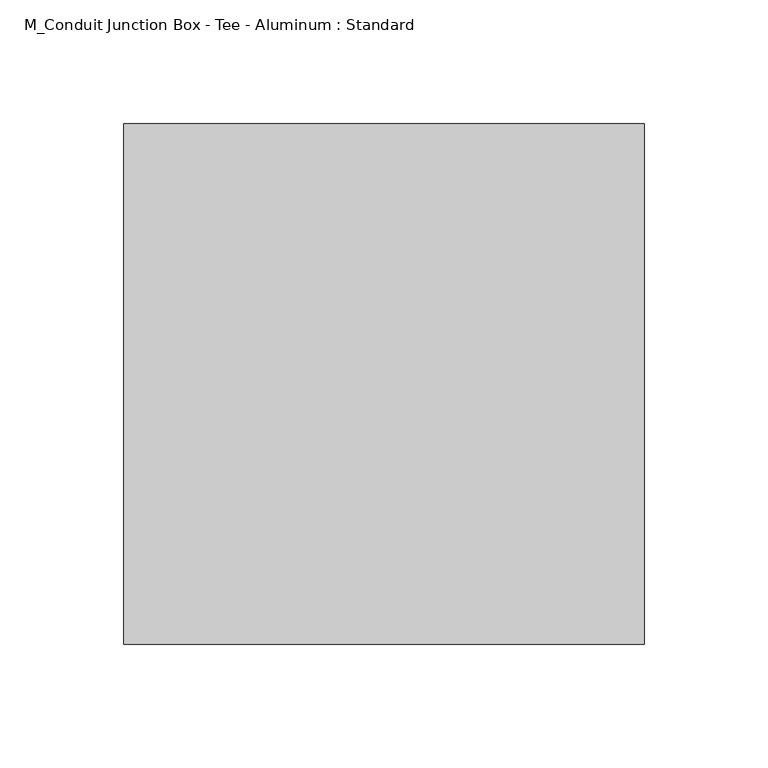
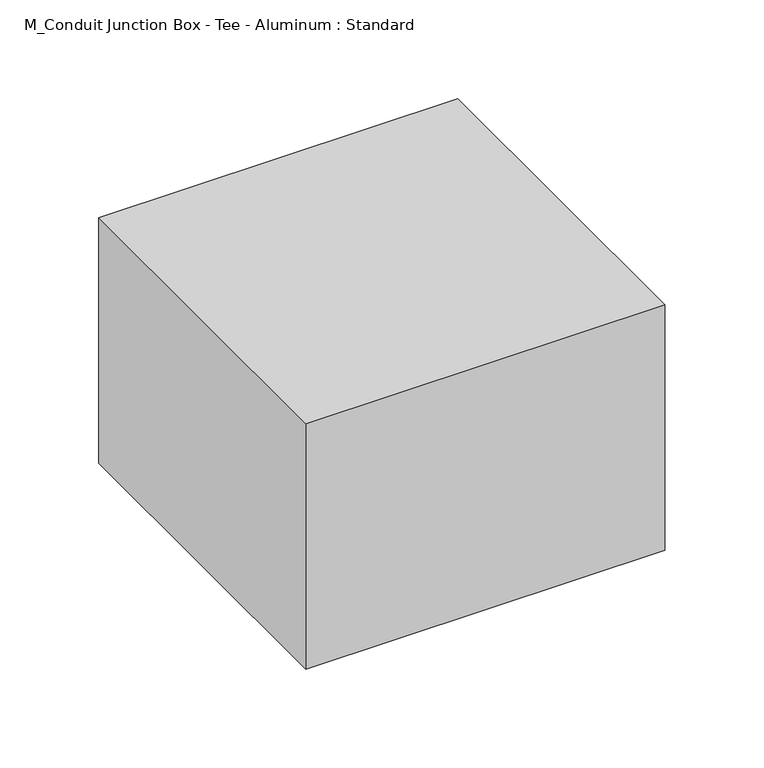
"""IFC4 building model written with IfcOpenShell, lengths in millimetres: cable carrier fitting geometry, M_Conduit Junction Box - Tee - Aluminum : Standard."""

from ifc_helpers import new_model, si_unit, frame, origin, place, context, project, spatial, polyline, outline, extrude, source, transform, mapped, element, save


def m_conduit_junction_box_tee_aluminum_standard_6fbf93d3(model_context):
    return source(origin(), model_context, "Body", "SweptSolid", [
        extrude(outline(polyline([(105.0, 105.0), (105.0, -105.0), (-105.0, -105.0), (-105.0, 105.0), (105.0, 105.0)])), frame((0.0, 0.0, -76.0), z_axis=(0.0, 0.0, 1.0), x_axis=(1.0, 0.0, 0.0)), (0.0, 0.0, 1.0), 152.0),
    ])


if __name__ == "__main__":
    model = new_model("IFC4")
    model_context = context("Model", 3, world=origin())
    ifc_project = project(units=[si_unit("LENGTHUNIT", "METRE", prefix="MILLI")], contexts=[model_context])
    site = spatial("IfcSite", under=ifc_project)
    building = spatial("IfcBuilding", under=site)
    placement = place(None, origin())
    m_conduit_junction_box_tee_aluminum_standard_shape = m_conduit_junction_box_tee_aluminum_standard_6fbf93d3(model_context)
    element("IfcCableCarrierFitting", 1, ObjectType="M_Conduit Junction Box - Tee - Aluminum : Standard", at=placement, inside=building, context=model_context, shape_type="MappedRepresentation", body=[
        mapped(m_conduit_junction_box_tee_aluminum_standard_shape, transform((0.0, 0.0, 0.0), x_axis=(1.0, 0.0, 0.0), y_axis=(0.0, 1.0, 0.0), z_axis=(0.0, 0.0, 1.0))),
    ])
    save(model, "model.ifc")
